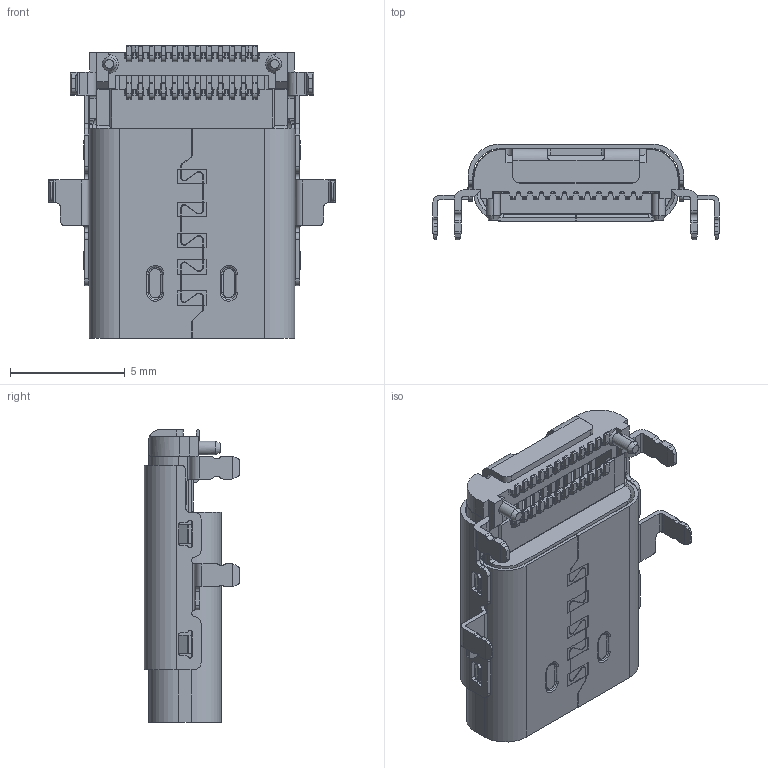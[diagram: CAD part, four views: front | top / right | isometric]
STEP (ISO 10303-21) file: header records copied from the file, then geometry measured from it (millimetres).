
FILE_DESCRIPTION (( 'STEP AP203' ), '1' );
FILE_NAME ('GT-USB-9068B.STEP', '2024-12-12T07:44:01', ( '' ), ( '' ), 'SwSTEP 2.0', 'SolidWorks 2023', '' );
FILE_SCHEMA (( 'CONFIG_CONTROL_DESIGN' ));
Length unit declared in the file: millimetre
Products named in the file (1): GT-USB-9068B
Bounding box: 12.46 x 4.17 x 12.75 mm (x, y, z)
Volume: 212 mm3; surface area: 1075.2 mm2
Topology: 1 solids, 16 shells, 2188 faces, 6451 edges, 4267 vertices
Faces by surface type: plane 1505, cylinder 510, bspline 76, torus 54, cone 43
Entity records: 77213 total; most frequent: CARTESIAN_POINT 18543, ORIENTED_EDGE 12902, DIRECTION 11374, EDGE_CURVE 6451, VECTOR 4806, LINE 4806, VERTEX_POINT 4267, AXIS2_PLACEMENT_3D 3284
